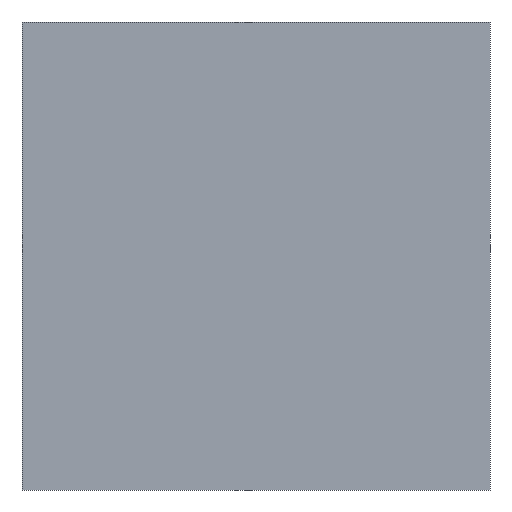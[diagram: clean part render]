
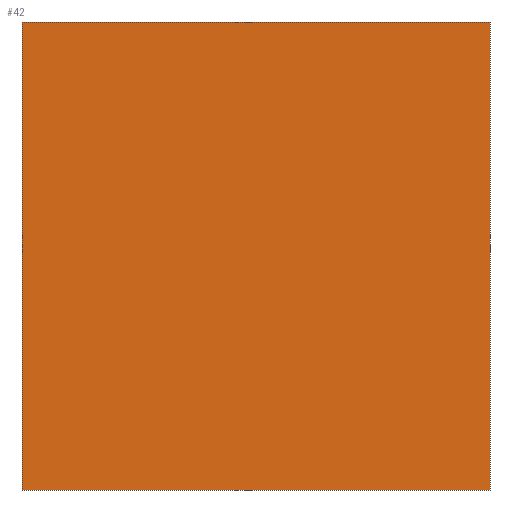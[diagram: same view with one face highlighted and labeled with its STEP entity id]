
A CAD part, front view. The second image highlights one B-rep face of the part: STEP entity #42.
In plain terms, the highlighted planar face has unit normal (0, -1, 0).
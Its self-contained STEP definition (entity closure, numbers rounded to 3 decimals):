
#29 = LINE ( 'NONE', #58, #199 ) ;
#36 = VECTOR ( 'NONE', #227, 1000. ) ;
#42 = ADVANCED_FACE ( 'NONE', ( #176 ), #148, .F. ) ;
#44 = VERTEX_POINT ( 'NONE', #196 ) ;
#55 = DIRECTION ( 'NONE',  ( 0., 0., 1. ) ) ;
#58 = CARTESIAN_POINT ( 'NONE',  ( 7.5, 0., 0. ) ) ;
#68 = VERTEX_POINT ( 'NONE', #270 ) ;
#70 = DIRECTION ( 'NONE',  ( 1., 0., 0. ) ) ;
#88 = ORIENTED_EDGE ( 'NONE', *, *, #222, .T. ) ;
#91 = CARTESIAN_POINT ( 'NONE',  ( 0., 0., 7.5 ) ) ;
#100 = LINE ( 'NONE', #178, #36 ) ;
#119 = CARTESIAN_POINT ( 'NONE',  ( 0., 0., 0. ) ) ;
#130 = LINE ( 'NONE', #158, #221 ) ;
#143 = LINE ( 'NONE', #91, #241 ) ;
#148 = PLANE ( 'NONE',  #172 ) ;
#151 = CARTESIAN_POINT ( 'NONE',  ( -7.5, 0., 7.5 ) ) ;
#154 = EDGE_CURVE ( 'NONE', #170, #44, #143, .T. ) ;
#158 = CARTESIAN_POINT ( 'NONE',  ( 0., 0., -7.5 ) ) ;
#170 = VERTEX_POINT ( 'NONE', #151 ) ;
#172 = AXIS2_PLACEMENT_3D ( 'NONE', #119, #173, #55 ) ;
#173 = DIRECTION ( 'NONE',  ( 0., 1., 0. ) ) ;
#176 = FACE_OUTER_BOUND ( 'NONE', #192, .T. ) ;
#178 = CARTESIAN_POINT ( 'NONE',  ( -7.5, 0., 0. ) ) ;
#181 = CARTESIAN_POINT ( 'NONE',  ( 7.5, 0., -7.5 ) ) ;
#192 = EDGE_LOOP ( 'NONE', ( #269, #212, #88, #292 ) ) ;
#196 = CARTESIAN_POINT ( 'NONE',  ( 7.5, 0., 7.5 ) ) ;
#199 = VECTOR ( 'NONE', #225, 1000. ) ;
#212 = ORIENTED_EDGE ( 'NONE', *, *, #300, .T. ) ;
#216 = EDGE_CURVE ( 'NONE', #44, #238, #29, .T. ) ;
#221 = VECTOR ( 'NONE', #226, 1000. ) ;
#222 = EDGE_CURVE ( 'NONE', #68, #238, #130, .T. ) ;
#225 = DIRECTION ( 'NONE',  ( 0., 0., -1. ) ) ;
#226 = DIRECTION ( 'NONE',  ( 1., 0., 0. ) ) ;
#227 = DIRECTION ( 'NONE',  ( 0., 0., -1. ) ) ;
#238 = VERTEX_POINT ( 'NONE', #181 ) ;
#241 = VECTOR ( 'NONE', #70, 1000. ) ;
#269 = ORIENTED_EDGE ( 'NONE', *, *, #154, .F. ) ;
#270 = CARTESIAN_POINT ( 'NONE',  ( -7.5, 0., -7.5 ) ) ;
#292 = ORIENTED_EDGE ( 'NONE', *, *, #216, .F. ) ;
#300 = EDGE_CURVE ( 'NONE', #170, #68, #100, .T. ) ;
